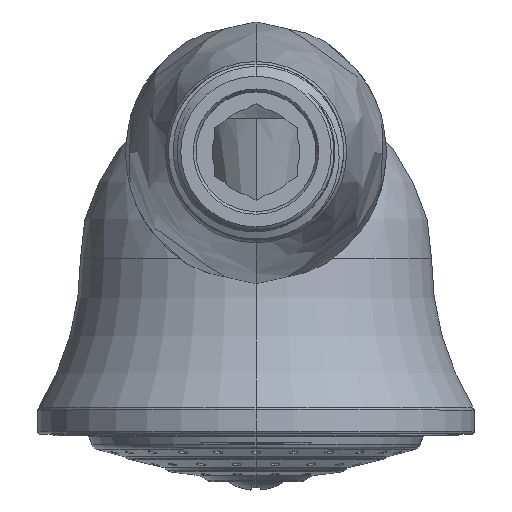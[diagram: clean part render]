
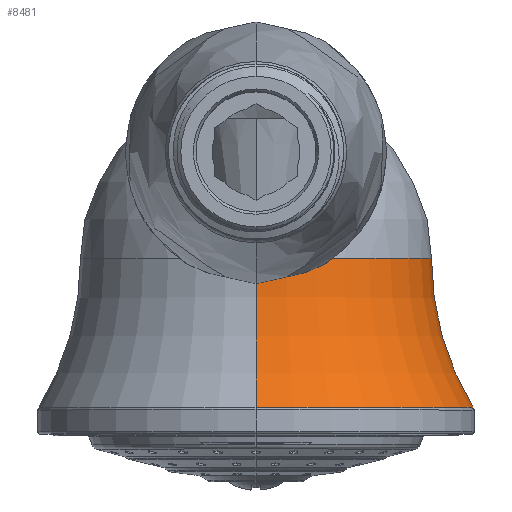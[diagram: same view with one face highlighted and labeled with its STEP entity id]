
A CAD part, top view. The second image highlights one B-rep face of the part: STEP entity #8481.
In plain terms, the highlighted toroidal (fillet/blend) face has major radius 55.31 mm and minor radius 34.31 mm.
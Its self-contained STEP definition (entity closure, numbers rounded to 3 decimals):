
#65=CARTESIAN_POINT('',(0.,21.,0.));
#66=DIRECTION('',(0.,1.,0.));
#67=DIRECTION('',(0.,0.,1.));
#68=AXIS2_PLACEMENT_3D('',#65,#66,#67);
#3598=CARTESIAN_POINT('',(0.,3.121,0.));
#3599=DIRECTION('',(0.,1.,0.));
#3600=DIRECTION('',(0.,0.,1.));
#3601=AXIS2_PLACEMENT_3D('',#3598,#3599,#3600);
#3603=CARTESIAN_POINT('',(0.,21.,55.31));
#3604=DIRECTION('',(1.,0.,0.));
#3605=DIRECTION('',(0.,-0.521,-0.853));
#3606=AXIS2_PLACEMENT_3D('',#3603,#3604,#3605);
#3613=CARTESIAN_POINT('',(0.,21.,-55.31));
#3614=DIRECTION('',(-1.,0.,0.));
#3615=DIRECTION('',(0.,-0.521,0.853));
#3616=AXIS2_PLACEMENT_3D('',#3613,#3614,#3615);
#3667=CARTESIAN_POINT('',(0.,3.121,26.027));
#3668=VERTEX_POINT('',#3667);
#3669=CARTESIAN_POINT('',(0.,21.,21.));
#3670=VERTEX_POINT('',#3669);
#3677=CARTESIAN_POINT('',(0.,3.121,-26.027));
#3678=VERTEX_POINT('',#3677);
#3679=CARTESIAN_POINT('',(0.,21.,-21.));
#3680=VERTEX_POINT('',#3679);
#8468=CARTESIAN_POINT('',(0.,21.,0.));
#8469=DIRECTION('',(0.,1.,0.));
#8470=DIRECTION('',(0.,0.,1.));
#8471=AXIS2_PLACEMENT_3D('',#8468,#8469,#8470);
#8472=TOROIDAL_SURFACE('',#8471,55.31,34.31);
#8474=ORIENTED_EDGE('',*,*,#8473,.T.);
#8475=ORIENTED_EDGE('',*,*,#3905,.T.);
#8477=ORIENTED_EDGE('',*,*,#8476,.F.);
#8478=ORIENTED_EDGE('',*,*,#8461,.F.);
#8479=EDGE_LOOP('',(#8474,#8475,#8477,#8478));
#8480=FACE_OUTER_BOUND('',#8479,.F.);
#8481=ADVANCED_FACE('',(#8480),#8472,.F.);
#69=CIRCLE('',#68,21.);
#3602=CIRCLE('',#3601,26.027);
#3607=CIRCLE('',#3606,34.31);
#3617=CIRCLE('',#3616,34.31);
#3905=EDGE_CURVE('',#3670,#3680,#69,.T.);
#8461=EDGE_CURVE('',#3668,#3678,#3602,.T.);
#8473=EDGE_CURVE('',#3668,#3670,#3607,.T.);
#8476=EDGE_CURVE('',#3678,#3680,#3617,.T.);
